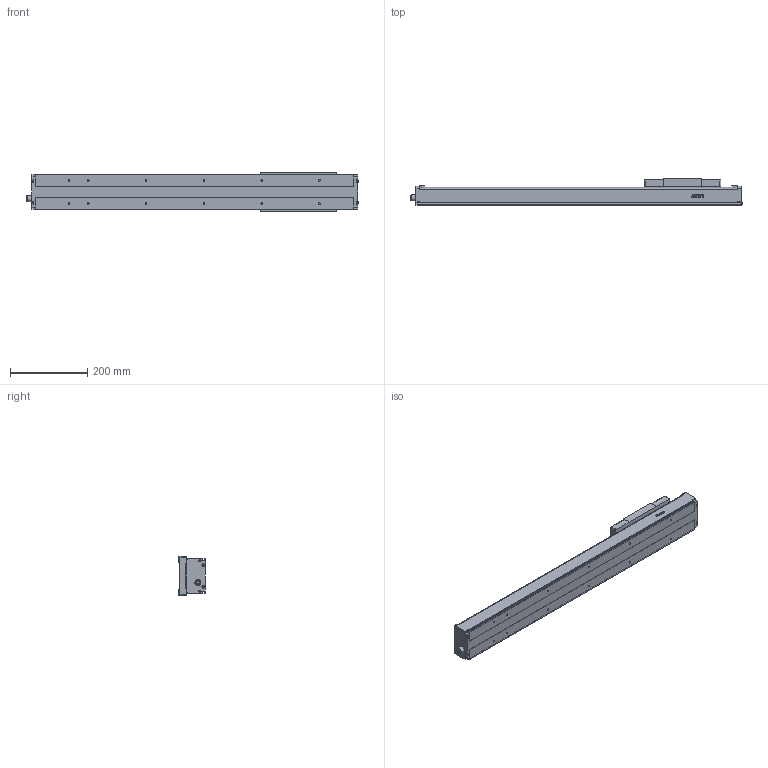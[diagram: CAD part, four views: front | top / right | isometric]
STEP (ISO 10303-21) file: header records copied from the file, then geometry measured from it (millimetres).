
FILE_DESCRIPTION(/* description */ (''),/* implementation_level */ '2;1');
FILE_NAME(/* name */ 'D:\混合母檔20191031\混和母檔\混和母檔\bin\Debug\Download\3D\KS90-5C-550AF0\KS90-5C-550AF0.stp',/* time_stamp */ '2019-11-04T14:37:04+08:00',/* author */ ('user'),/* organization */ (''),/* preprocessor_version */ 'ST-DEVELOPER v16.13',/* originating_system */ 'Autodesk Inventor 2018',/* authorisation */ '');
FILE_SCHEMA (('AUTOMOTIVE_DESIGN { 1 0 10303 214 3 1 1 }'));
Length unit declared in the file: millimetre
Products named in the file (3): KS90-5C-550AF0; KS90-F0; KS90-SL
Assembly tree (2 placements, depth 2):
  KS90-5C-550AF0
    KS90-F0
    KS90-SL
Bounding box: 861.6 x 68.5 x 102.4 mm (x, y, z)
Volume: 1377989.8 mm3; surface area: 548740.4 mm2
Topology: 3 solids, 13 shells, 1019 faces, 2798 edges, 1848 vertices
Faces by surface type: plane 563, cylinder 148, bspline 136, cone 120, torus 48, sphere 4
Full cylindrical faces by diameter (mm): 2.113 x2, 2.459 x8, 2.5 x4, 2.693 x8, 3 x12, 3.242 x6, 3.5 x8, 4 x7, 4.134 x12, 4.5 x8, 4.917 x4, 5.5 x12, 6 x3, 7 x4, 8 x2, 10.437 x1, 11 x1, 11.5 x1, 14 x1, 15.538 x1, 28 x1, 30 x1
Entity records: 37929 total; most frequent: CARTESIAN_POINT 14058, ORIENTED_EDGE 5022, DIRECTION 4460, EDGE_CURVE 2511, VERTEX_POINT 1733, LINE 1498, VECTOR 1498, AXIS2_PLACEMENT_3D 1481
